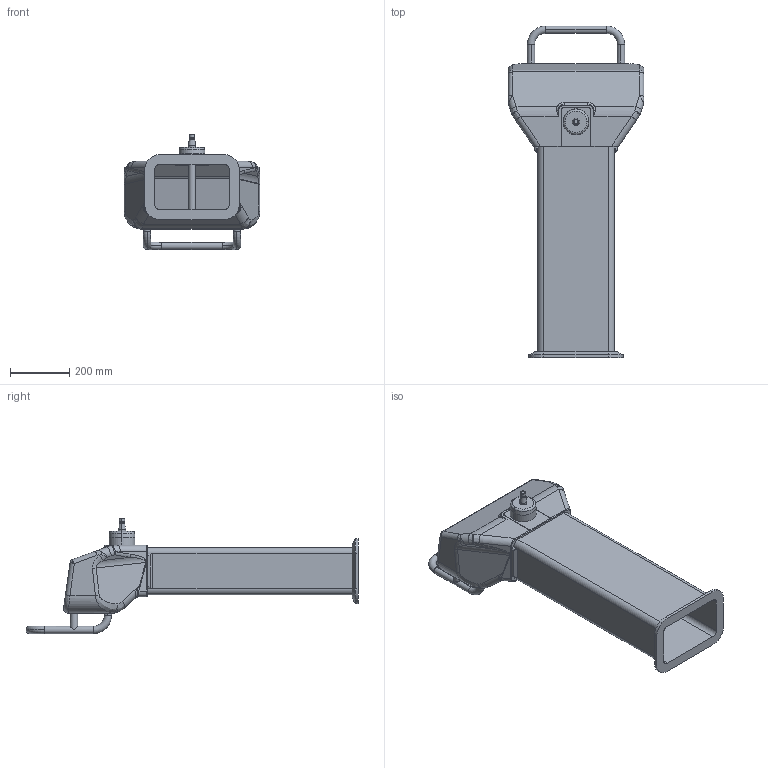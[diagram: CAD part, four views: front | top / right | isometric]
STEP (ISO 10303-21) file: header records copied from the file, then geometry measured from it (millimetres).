
FILE_DESCRIPTION (( 'STEP AP214' ), '1' );
FILE_NAME ('RP300-80.STEP', '2014-09-09T09:33:37', ( '' ), ( '' ), 'SwSTEP 2.0', 'SolidWorks 2014', '' );
FILE_SCHEMA (( 'AUTOMOTIVE_DESIGN' ));
Length unit declared in the file: millimetre
Products named in the file (1): RP300-80
Bounding box: 460 x 1125.41 x 390.75 mm (x, y, z)
Volume: 4988026.4 mm3; surface area: 2177724.2 mm2
Topology: 1 solids, 4 shells, 363 faces, 870 edges, 503 vertices
Faces by surface type: cylinder 153, bspline 88, plane 70, torus 24, sphere 16, cone 12
Entity records: 15345 total; most frequent: CARTESIAN_POINT 6777, ORIENTED_EDGE 1704, DIRECTION 1523, EDGE_CURVE 852, AXIS2_PLACEMENT_3D 608, VERTEX_POINT 503, EDGE_LOOP 375, ADVANCED_FACE 363
